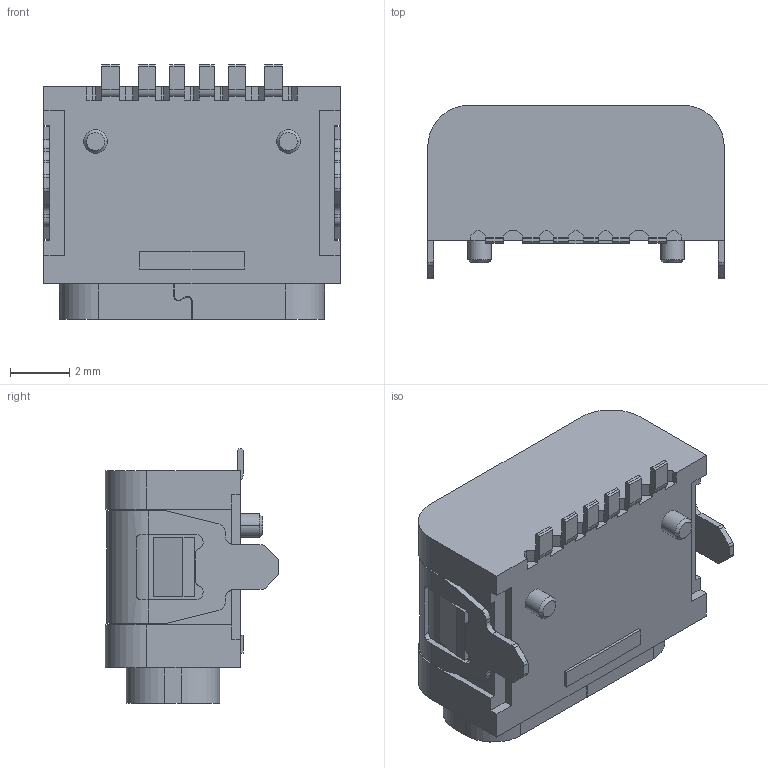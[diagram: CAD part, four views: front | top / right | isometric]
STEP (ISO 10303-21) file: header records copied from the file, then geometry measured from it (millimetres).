
FILE_DESCRIPTION((''),'2;1');
FILE_NAME('111','2023-02-17T15:53:25',('Administrator'),(''),'CREO PARAMETRIC BY PTC INC, 2019080','CREO PARAMETRIC BY PTC INC, 2019080','');
FILE_SCHEMA(('CONFIG_CONTROL_DESIGN'));
Length unit declared in the file: millimetre
Products named in the file (1): 111
Bounding box: 10 x 5.85 x 8.6 mm (x, y, z)
Surface area: 1132.5 mm2 (no closed solid volume)
Topology: 0 solids, 2 shells, 1440 faces, 3992 edges, 2632 vertices
Faces by surface type: plane 1174, cylinder 234, cone 32
Entity records: 45582 total; most frequent: CARTESIAN_POINT 8187, ORIENTED_EDGE 7984, DIRECTION 7348, EDGE_CURVE 3992, VECTOR 3468, LINE 3468, VERTEX_POINT 2632, AXIS2_PLACEMENT_3D 1940
